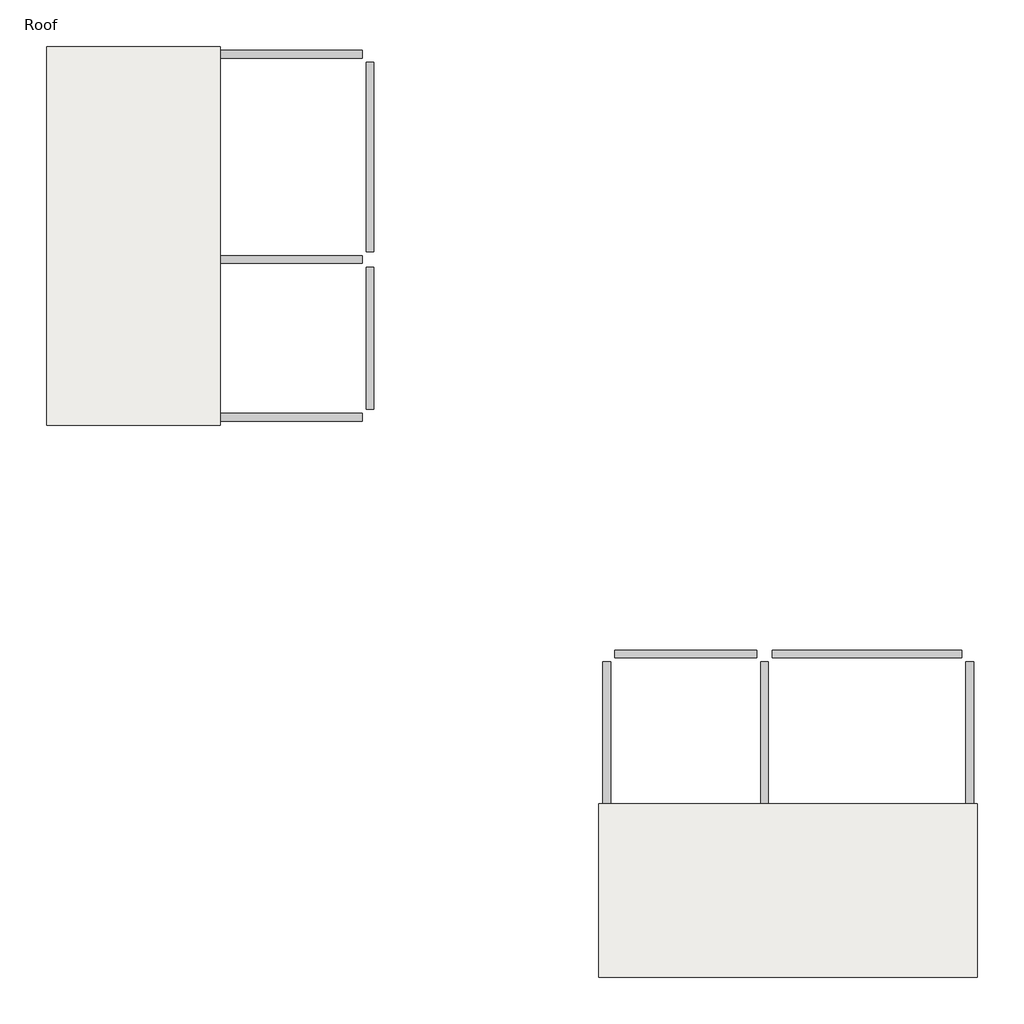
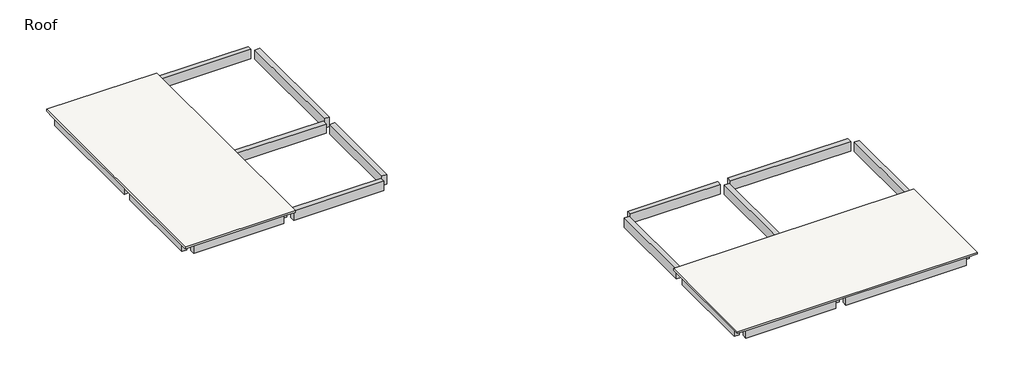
# One storey: 24 beams, 2 slabs.
"""IFC4 building model written with IfcOpenShell, lengths in millimetres."""

import ifcopenshell
import ifcopenshell.guid

model = None  # the IFC model being written
_history = None  # IfcOwnerHistory: only IFC2X3 demands one
_inside = {}  # id of a spatial element -> (the spatial element, [elements in it])
_under = {}  # id of a project, library or spatial element -> (it, [spatial elements below it])
_declared = {}  # id of a project -> (the project, [libraries it declares])
_typed = {}  # id of a type object -> (the type object, [elements of that type])
_made_of = {}  # id of a material, layer set ... -> (it, [elements and type objects made of it])


def new_model(schema):
    """Start an empty IFC model of exactly this schema.

    Asked for "IFC4X3", IfcOpenShell would pick the latest addendum, in which some entities
    have other attributes; the version numbers below select the first issue.
    IFC2X3 requires an IfcOwnerHistory on every rooted entity: one is made here for all.
    """
    global model, _history
    if schema == "IFC4X3":
        model = ifcopenshell.file(schema_version=(4, 3, 0, 0))
    else:
        model = ifcopenshell.file(schema=schema)
    _inside.clear()
    _under.clear()
    _declared.clear()
    _typed.clear()
    _made_of.clear()
    _history = None
    if model.schema == "IFC2X3":
        org = make("IfcOrganization", Name="unknown")
        user = make(
            "IfcPersonAndOrganization",
            ThePerson=make("IfcPerson", FamilyName="unknown"),
            TheOrganization=org,
        )
        app = make(
            "IfcApplication",
            ApplicationDeveloper=org,
            Version="unknown",
            ApplicationFullName="unknown",
            ApplicationIdentifier="unknown",
        )
        _history = make(
            "IfcOwnerHistory",
            OwningUser=user,
            OwningApplication=app,
            ChangeAction="ADDED",
            CreationDate=0,
        )
    return model


def make(cls, **values):
    """One entity of the class cls with the attributes given. An attribute that is None is left unset."""
    return model.create_entity(
        cls, **{name: value for name, value in values.items() if value is not None}
    )


def rooted(cls, **values):
    """An entity with a GlobalId (a new one), such as an element, a storey or a relation."""
    return make(cls, GlobalId=ifcopenshell.guid.new(), OwnerHistory=_history, **values)


def si_unit(unit_type, name, prefix=None):
    """IfcSIUnit, for example si_unit("LENGTHUNIT", "METRE", prefix="MILLI")."""
    return make("IfcSIUnit", UnitType=unit_type, Prefix=prefix, Name=name)


def assignment(units):
    """IfcUnitAssignment: the units of a project."""
    return None if units is None else make("IfcUnitAssignment", Units=units)


def point(xyz):
    """IfcCartesianPoint."""
    return None if xyz is None else make("IfcCartesianPoint", Coordinates=xyz)


def direction(xyz):
    """IfcDirection."""
    return None if xyz is None else make("IfcDirection", DirectionRatios=xyz)


def frame(location, z_axis=None, x_axis=None):
    """IfcAxis2Placement3D, a coordinate frame: its origin and axes. An axis left out is left unset."""
    return make(
        "IfcAxis2Placement3D",
        Location=point(location),
        Axis=direction(z_axis),
        RefDirection=direction(x_axis),
    )


def origin():
    """The frame at (0, 0, 0) with its axes left unset."""
    return frame((0.0, 0.0, 0.0))


def place(relative_to, where):
    """IfcLocalPlacement: puts the frame where relative to a parent placement (None: the world)."""
    return make(
        "IfcLocalPlacement", PlacementRelTo=relative_to, RelativePlacement=where
    )


def context(
    kind, dimensions, precision=None, world=None, true_north=None, identifier=None
):
    """IfcGeometricRepresentationContext, for example the 3D "Model" context."""
    return make(
        "IfcGeometricRepresentationContext",
        ContextIdentifier=identifier,
        ContextType=kind,
        CoordinateSpaceDimension=dimensions,
        Precision=precision,
        WorldCoordinateSystem=world,
        TrueNorth=true_north,
    )


def project(units=None, contexts=None):
    """IfcProject with its units and contexts."""
    return rooted(
        "IfcProject",
        Name="project",
        RepresentationContexts=contexts,
        UnitsInContext=assignment(units),
    )


def spatial(cls, under=None, at=None, **own):
    """A site, building, storey or space (cls), placed at a placement, below another one or the project."""
    s = rooted(cls, ObjectPlacement=at, **own)
    if under is not None:
        _under.setdefault(under.id(), (under, []))[1].append(s)
    return s


def polyline(points):
    """IfcPolyline through the points."""
    return make("IfcPolyline", Points=[point(p) for p in points])


def outline(outer, holes=None, kind="AREA"):
    """IfcArbitraryClosedProfileDef: a profile drawn as a closed curve; with holes, ...WithVoids."""
    if holes is None:
        return make("IfcArbitraryClosedProfileDef", ProfileType=kind, OuterCurve=outer)
    return make(
        "IfcArbitraryProfileDefWithVoids",
        ProfileType=kind,
        OuterCurve=outer,
        InnerCurves=holes,
    )


def extrude(swept, where, along, depth):
    """IfcExtrudedAreaSolid: the profile swept, set in the frame where, extruded along a direction by depth."""
    return make(
        "IfcExtrudedAreaSolid",
        SweptArea=swept,
        Position=where,
        ExtrudedDirection=direction(along),
        Depth=depth,
    )


def faces_of(points, faces, orient=None, outer=None):
    """IfcFace entities. A face is a list of loops; a loop is a list of indices into points, from 0.

    orient and outer hold one flag for each loop. By default every Orientation is true, the
    first loop of a face is its IfcFaceOuterBound and the others are IfcFaceBound.
    """
    made = []
    for i, loops in enumerate(faces):
        bounds = []
        for j, loop in enumerate(loops):
            is_outer = j == 0 if outer is None else outer[i][j]
            bounds.append(
                make(
                    "IfcFaceOuterBound" if is_outer else "IfcFaceBound",
                    Bound=make("IfcPolyLoop", Polygon=[points[k] for k in loop]),
                    Orientation=True if orient is None else orient[i][j],
                )
            )
        made.append(make("IfcFace", Bounds=bounds))
    return made


def faceted_brep(points, faces, orient=None, outer=None, voids=None):
    """IfcFacetedBrep: a solid bounded by flat faces; with voids (closed shells), ...WithVoids."""
    shared = [point(p) for p in points]
    hull = make("IfcClosedShell", CfsFaces=faces_of(shared, faces, orient, outer))
    if voids is None:
        return make("IfcFacetedBrep", Outer=hull)
    return make(
        "IfcFacetedBrepWithVoids",
        Outer=hull,
        Voids=[
            make(cls, CfsFaces=faces_of(shared, fs, o, b)) for cls, fs, o, b in voids
        ],
    )


def shape(context_of_items, identifier, shape_type, items):
    """IfcShapeRepresentation: the items that make up one representation, for example the "Body"."""
    return make(
        "IfcShapeRepresentation",
        ContextOfItems=context_of_items,
        RepresentationIdentifier=identifier,
        RepresentationType=shape_type,
        Items=items,
    )


def made_of(thing, what):
    """Note that an element or type object is made of a material, layer set ...; save() writes the relation."""
    if what is not None:
        _made_of.setdefault(what.id(), (what, []))[1].append(thing)
    return thing


def element(
    cls,
    number,
    at=None,
    inside=None,
    cuts=None,
    type_object=None,
    material=None,
    context=None,
    identifier="Body",
    shape_type=None,
    held_by="IfcProductDefinitionShape",
    body=None,
    shapes=None,
    **own,
):
    """One element of the class cls, such as IfcWall. Its Tag is "e" and its number.

    at: its placement. inside: the storey or other place that contains it. cuts: it is an
    opening in that element (IfcRelVoidsElement). A single representation is given by context,
    identifier, shape_type and body (its items); several are given by shapes. held_by: the class
    of the entity that holds the representations. save() writes the other relations.
    """
    e = rooted(cls, Tag="e%d" % number, ObjectPlacement=at, **own)
    if body is not None:
        shapes = [shape(context, identifier, shape_type, body)]
    if shapes is not None:
        e.Representation = make(held_by, Representations=shapes)
    if inside is not None:
        _inside.setdefault(inside.id(), (inside, []))[1].append(e)
    if cuts is not None:
        rooted(
            "IfcRelVoidsElement", RelatingBuildingElement=cuts, RelatedOpeningElement=e
        )
    if type_object is not None:
        _typed.setdefault(type_object.id(), (type_object, []))[1].append(e)
    return made_of(e, material)


def aggregate(whole, parts):
    """IfcRelAggregates: a whole, such as a stair, and the parts it consists of."""
    return rooted("IfcRelAggregates", RelatingObject=whole, RelatedObjects=parts)


def save(model, path):
    """Write the relations noted so far, then the file.

    IfcRelAggregates (storeys below a building ...), IfcRelContainedInSpatialStructure (elements
    in a storey), IfcRelDefinesByType, IfcRelAssociatesMaterial and IfcRelDeclares: one each for
    every whole, place, type object, material and project.
    """
    for whole, parts in _under.values():
        aggregate(whole, parts)
    for where, things in _inside.values():
        rooted(
            "IfcRelContainedInSpatialStructure",
            RelatedElements=things,
            RelatingStructure=where,
        )
    for kind, things in _typed.values():
        rooted("IfcRelDefinesByType", RelatedObjects=things, RelatingType=kind)
    for what, things in _made_of.values():
        rooted("IfcRelAssociatesMaterial", RelatedObjects=things, RelatingMaterial=what)
    for by, libraries in _declared.values():
        rooted("IfcRelDeclares", RelatingContext=by, RelatedDefinitions=libraries)
    model.write(path)


model = new_model("IFC4")

# Units and contexts
model_context = context("Model", 3, world=origin())
ifc_project = project(units=[si_unit("LENGTHUNIT", "METRE", prefix="MILLI")], contexts=[model_context])

# Site, building, storey
site = spatial("IfcSite", under=ifc_project)
building = spatial("IfcBuilding", under=site)
storey = spatial("IfcBuildingStorey", under=building, Name="Roof", Elevation=7315.2)

# Beams
placement = place(None, origin())
element("IfcBeam", 1, ObjectType="Concrete-Rectangular Beam : 12 x 24", at=placement, inside=storey, context=model_context, shape_type="SweptSolid", body=[
    extrude(outline(polyline([(-38390.2357458, 10155.1034229), (-38390.2357458, 10459.9034229), (-32903.8357458, 10459.9034229), (-32903.8357458, 10155.1034229), (-38390.2357458, 10155.1034229)])), frame((0.0, 0.0, 6705.6), z_axis=(0.0, 0.0, 1.0), x_axis=(1.0, 0.0, 0.0)), (0.0, 0.0, 1.0), 609.6),
])
element("IfcBeam", 2, ObjectType="Concrete-Rectangular Beam : 12 x 24", at=placement, inside=storey, context=model_context, shape_type="SweptSolid", body=[
    extrude(outline(polyline([(-32294.2357458, 10155.1034229), (-32294.2357458, 10459.9034229), (-26807.8357458, 10459.9034229), (-26807.8357458, 10155.1034229), (-32294.2357458, 10155.1034229)])), frame((0.0, 0.0, 6705.6), z_axis=(0.0, 0.0, 1.0), x_axis=(1.0, 0.0, 0.0)), (0.0, 0.0, 1.0), 609.6),
])
element("IfcBeam", 3, ObjectType="Concrete-Rectangular Beam : 12 x 24", at=placement, inside=storey, context=model_context, shape_type="SweptSolid", body=[
    extrude(outline(polyline([(-32294.2357458, -3865.6965771), (-32294.2357458, -3560.8965771), (-26807.8357458, -3560.8965771), (-26807.8357458, -3865.6965771), (-32294.2357458, -3865.6965771)])), frame((0.0, 0.0, 6705.6), z_axis=(0.0, 0.0, 1.0), x_axis=(1.0, 0.0, 0.0)), (0.0, 0.0, 1.0), 609.6),
])
element("IfcBeam", 4, ObjectType="Concrete-Rectangular Beam : 12 x 24", at=placement, inside=storey, context=model_context, shape_type="SweptSolid", body=[
    extrude(outline(polyline([(-38390.2357458, -3865.6965771), (-38390.2357458, -3560.8965771), (-32903.8357458, -3560.8965771), (-32903.8357458, -3865.6965771), (-38390.2357458, -3865.6965771)])), frame((0.0, 0.0, 6705.6), z_axis=(0.0, 0.0, 1.0), x_axis=(1.0, 0.0, 0.0)), (0.0, 0.0, 1.0), 609.6),
])
element("IfcBeam", 5, ObjectType="Concrete-Rectangular Beam : 12 x 24", at=placement, inside=storey, context=model_context, shape_type="SweptSolid", body=[
    extrude(outline(polyline([(-32294.2357458, 2230.3034229), (-32294.2357458, 2535.1034229), (-26807.8357458, 2535.1034229), (-26807.8357458, 2230.3034229), (-32294.2357458, 2230.3034229)])), frame((0.0, 0.0, 6705.6), z_axis=(0.0, 0.0, 1.0), x_axis=(1.0, 0.0, 0.0)), (0.0, 0.0, 1.0), 609.6),
])
element("IfcBeam", 6, ObjectType="Concrete-Rectangular Beam : 12 x 24", at=placement, inside=storey, context=model_context, shape_type="SweptSolid", body=[
    extrude(outline(polyline([(-38390.2357458, 2230.3034229), (-38390.2357458, 2535.1034229), (-32903.8357458, 2535.1034229), (-32903.8357458, 2230.3034229), (-38390.2357458, 2230.3034229)])), frame((0.0, 0.0, 6705.6), z_axis=(0.0, 0.0, 1.0), x_axis=(1.0, 0.0, 0.0)), (0.0, 0.0, 1.0), 609.6),
])
element("IfcBeam", 7, ObjectType="Concrete-Rectangular Beam : 12 x 24", at=placement, inside=storey, context=model_context, shape_type="SweptSolid", body=[
    extrude(outline(polyline([(-26350.6357458, -3408.4965771), (-26655.4357458, -3408.4965771), (-26655.4357458, 2077.9034229), (-26350.6357458, 2077.9034229), (-26350.6357458, -3408.4965771)])), frame((0.0, 0.0, 6705.6), z_axis=(0.0, 0.0, 1.0), x_axis=(1.0, 0.0, 0.0)), (0.0, 0.0, 1.0), 609.6),
])
element("IfcBeam", 8, ObjectType="Concrete-Rectangular Beam : 12 x 24", at=placement, inside=storey, context=model_context, shape_type="SweptSolid", body=[
    extrude(outline(polyline([(-26350.6357458, 2687.5034229), (-26655.4357458, 2687.5034229), (-26655.4357458, 10002.7034229), (-26350.6357458, 10002.7034229), (-26350.6357458, 2687.5034229)])), frame((0.0, 0.0, 6705.6), z_axis=(0.0, 0.0, 1.0), x_axis=(1.0, 0.0, 0.0)), (0.0, 0.0, 1.0), 609.6),
])
element("IfcBeam", 9, ObjectType="Concrete-Rectangular Beam : 12 x 24", at=placement, inside=storey, context=model_context, shape_type="SweptSolid", body=[
    extrude(outline(polyline([(-32446.6357458, -3408.4965771), (-32751.4357458, -3408.4965771), (-32751.4357458, 2077.9034229), (-32446.6357458, 2077.9034229), (-32446.6357458, -3408.4965771)])), frame((0.0, 0.0, 6705.6), z_axis=(0.0, 0.0, 1.0), x_axis=(1.0, 0.0, 0.0)), (0.0, 0.0, 1.0), 609.6),
])
element("IfcBeam", 10, ObjectType="Concrete-Rectangular Beam : 12 x 24", at=placement, inside=storey, context=model_context, shape_type="SweptSolid", body=[
    extrude(outline(polyline([(-32446.6357458, 2687.5034229), (-32751.4357458, 2687.5034229), (-32751.4357458, 10002.7034229), (-32446.6357458, 10002.7034229), (-32446.6357458, 2687.5034229)])), frame((0.0, 0.0, 6705.6), z_axis=(0.0, 0.0, 1.0), x_axis=(1.0, 0.0, 0.0)), (0.0, 0.0, 1.0), 609.6),
])
element("IfcBeam", 11, ObjectType="Concrete-Rectangular Beam : 12 x 24", at=placement, inside=storey, context=model_context, shape_type="SweptSolid", body=[
    extrude(outline(polyline([(-38542.6357458, -3408.4965771), (-38847.4357458, -3408.4965771), (-38847.4357458, 2077.9034229), (-38542.6357458, 2077.9034229), (-38542.6357458, -3408.4965771)])), frame((0.0, 0.0, 6705.6), z_axis=(0.0, 0.0, 1.0), x_axis=(1.0, 0.0, 0.0)), (0.0, 0.0, 1.0), 609.6),
])
element("IfcBeam", 12, ObjectType="Concrete-Rectangular Beam : 12 x 24", at=placement, inside=storey, context=model_context, shape_type="SweptSolid", body=[
    extrude(outline(polyline([(-38542.6357458, 2687.5034229), (-38847.4357458, 2687.5034229), (-38847.4357458, 10002.7034229), (-38542.6357458, 10002.7034229), (-38542.6357458, 2687.5034229)])), frame((0.0, 0.0, 6705.6), z_axis=(0.0, 0.0, 1.0), x_axis=(1.0, 0.0, 0.0)), (0.0, 0.0, 1.0), 609.6),
])
element("IfcBeam", 13, ObjectType="Concrete-Rectangular Beam : 12 x 24", at=placement, inside=storey, context=model_context, shape_type="SweptSolid", body=[
    extrude(outline(polyline([(-3185.8357458, -24744.4965771), (-3490.6357458, -24744.4965771), (-3490.6357458, -19258.0965771), (-3185.8357458, -19258.0965771), (-3185.8357458, -24744.4965771)])), frame((0.0, 0.0, 6705.6), z_axis=(0.0, 0.0, 1.0), x_axis=(1.0, 0.0, 0.0)), (0.0, 0.0, 1.0), 609.6),
])
element("IfcBeam", 14, ObjectType="Concrete-Rectangular Beam : 12 x 24", at=placement, inside=storey, context=model_context, shape_type="SweptSolid", body=[
    extrude(outline(polyline([(-3185.8357458, -18648.4965771), (-3490.6357458, -18648.4965771), (-3490.6357458, -13162.0965771), (-3185.8357458, -13162.0965771), (-3185.8357458, -18648.4965771)])), frame((0.0, 0.0, 6705.6), z_axis=(0.0, 0.0, 1.0), x_axis=(1.0, 0.0, 0.0)), (0.0, 0.0, 1.0), 609.6),
])
element("IfcBeam", 15, ObjectType="Concrete-Rectangular Beam : 12 x 24", at=placement, inside=storey, context=model_context, shape_type="SweptSolid", body=[
    extrude(outline(polyline([(-17206.6357458, -18648.4965771), (-17511.4357458, -18648.4965771), (-17511.4357458, -13162.0965771), (-17206.6357458, -13162.0965771), (-17206.6357458, -18648.4965771)])), frame((0.0, 0.0, 6705.6), z_axis=(0.0, 0.0, 1.0), x_axis=(1.0, 0.0, 0.0)), (0.0, 0.0, 1.0), 609.6),
])
element("IfcBeam", 16, ObjectType="Concrete-Rectangular Beam : 12 x 24", at=placement, inside=storey, context=model_context, shape_type="SweptSolid", body=[
    extrude(outline(polyline([(-17206.6357458, -24744.4965771), (-17511.4357458, -24744.4965771), (-17511.4357458, -19258.0965771), (-17206.6357458, -19258.0965771), (-17206.6357458, -24744.4965771)])), frame((0.0, 0.0, 6705.6), z_axis=(0.0, 0.0, 1.0), x_axis=(1.0, 0.0, 0.0)), (0.0, 0.0, 1.0), 609.6),
])
element("IfcBeam", 17, ObjectType="Concrete-Rectangular Beam : 12 x 24", at=placement, inside=storey, context=model_context, shape_type="SweptSolid", body=[
    extrude(outline(polyline([(-11110.6357458, -18648.4965771), (-11415.4357458, -18648.4965771), (-11415.4357458, -13162.0965771), (-11110.6357458, -13162.0965771), (-11110.6357458, -18648.4965771)])), frame((0.0, 0.0, 6705.6), z_axis=(0.0, 0.0, 1.0), x_axis=(1.0, 0.0, 0.0)), (0.0, 0.0, 1.0), 609.6),
])
element("IfcBeam", 18, ObjectType="Concrete-Rectangular Beam : 12 x 24", at=placement, inside=storey, context=model_context, shape_type="SweptSolid", body=[
    extrude(outline(polyline([(-11110.6357458, -24744.4965771), (-11415.4357458, -24744.4965771), (-11415.4357458, -19258.0965771), (-11110.6357458, -19258.0965771), (-11110.6357458, -24744.4965771)])), frame((0.0, 0.0, 6705.6), z_axis=(0.0, 0.0, 1.0), x_axis=(1.0, 0.0, 0.0)), (0.0, 0.0, 1.0), 609.6),
])
element("IfcBeam", 19, ObjectType="Concrete-Rectangular Beam : 12 x 24", at=placement, inside=storey, context=model_context, shape_type="SweptSolid", body=[
    extrude(outline(polyline([(-17054.2357458, -13009.6965771), (-17054.2357458, -12704.8965771), (-11567.8357458, -12704.8965771), (-11567.8357458, -13009.6965771), (-17054.2357458, -13009.6965771)])), frame((0.0, 0.0, 6705.6), z_axis=(0.0, 0.0, 1.0), x_axis=(1.0, 0.0, 0.0)), (0.0, 0.0, 1.0), 609.6),
])
element("IfcBeam", 20, ObjectType="Concrete-Rectangular Beam : 12 x 24", at=placement, inside=storey, context=model_context, shape_type="SweptSolid", body=[
    extrude(outline(polyline([(-10958.2357458, -13009.6965771), (-10958.2357458, -12704.8965771), (-3643.0357458, -12704.8965771), (-3643.0357458, -13009.6965771), (-10958.2357458, -13009.6965771)])), frame((0.0, 0.0, 6705.6), z_axis=(0.0, 0.0, 1.0), x_axis=(1.0, 0.0, 0.0)), (0.0, 0.0, 1.0), 609.6),
])
element("IfcBeam", 21, ObjectType="Concrete-Rectangular Beam : 12 x 24", at=placement, inside=storey, context=model_context, shape_type="SweptSolid", body=[
    extrude(outline(polyline([(-17054.2357458, -19105.6965771), (-17054.2357458, -18800.8965771), (-11567.8357458, -18800.8965771), (-11567.8357458, -19105.6965771), (-17054.2357458, -19105.6965771)])), frame((0.0, 0.0, 6705.6), z_axis=(0.0, 0.0, 1.0), x_axis=(1.0, 0.0, 0.0)), (0.0, 0.0, 1.0), 609.6),
])
element("IfcBeam", 22, ObjectType="Concrete-Rectangular Beam : 12 x 24", at=placement, inside=storey, context=model_context, shape_type="SweptSolid", body=[
    extrude(outline(polyline([(-10958.2357458, -19105.6965771), (-10958.2357458, -18800.8965771), (-3643.0357458, -18800.8965771), (-3643.0357458, -19105.6965771), (-10958.2357458, -19105.6965771)])), frame((0.0, 0.0, 6705.6), z_axis=(0.0, 0.0, 1.0), x_axis=(1.0, 0.0, 0.0)), (0.0, 0.0, 1.0), 609.6),
])
element("IfcBeam", 23, ObjectType="Concrete-Rectangular Beam : 12 x 24", at=placement, inside=storey, context=model_context, shape_type="SweptSolid", body=[
    extrude(outline(polyline([(-17054.2357458, -25201.6965771), (-17054.2357458, -24896.8965771), (-11567.8357458, -24896.8965771), (-11567.8357458, -25201.6965771), (-17054.2357458, -25201.6965771)])), frame((0.0, 0.0, 6705.6), z_axis=(0.0, 0.0, 1.0), x_axis=(1.0, 0.0, 0.0)), (0.0, 0.0, 1.0), 609.6),
])
element("IfcBeam", 24, ObjectType="Concrete-Rectangular Beam : 12 x 24", at=placement, inside=storey, context=model_context, shape_type="SweptSolid", body=[
    extrude(outline(polyline([(-10958.2357458, -25201.6965771), (-10958.2357458, -24896.8965771), (-3643.0357458, -24896.8965771), (-3643.0357458, -25201.6965771), (-10958.2357458, -25201.6965771)])), frame((0.0, 0.0, 6705.6), z_axis=(0.0, 0.0, 1.0), x_axis=(1.0, 0.0, 0.0)), (0.0, 0.0, 1.0), 609.6),
])

# Slabs
element("IfcSlab", 25, ObjectType="LW Concrete on Metal Deck", at=placement, inside=storey, context=model_context, shape_type="Brep", body=[
    faceted_brep([(-32294.2357458, 10612.3034229, 7315.2), (-32294.2357458, 10002.7034229, 7315.2), (-32294.2357458, 2687.5034229, 7315.2), (-32294.2357458, 2077.9034229, 7315.2), (-32294.2357458, -3408.4965771, 7315.2), (-32294.2357458, -4018.0965771, 7315.2), (-32903.8357458, -4018.0965771, 7315.2), (-38390.2357458, -4018.0965771, 7315.2), (-38999.8357458, -4018.0965771, 7315.2), (-38999.8357458, -3408.4965771, 7315.2), (-38999.8357458, 2077.9034229, 7315.2), (-38999.8357458, 2687.5034229, 7315.2), (-38999.8357458, 10002.7034229, 7315.2), (-38999.8357458, 10612.3034229, 7315.2), (-38390.2357458, 10612.3034229, 7315.2), (-32903.8357458, 10612.3034229, 7315.2), (-32294.2357458, 10612.3034229, 7435.85), (-38999.8357458, 10612.3034229, 7435.85), (-38999.8357458, -4018.0965771, 7435.85), (-32294.2357458, -4018.0965771, 7435.85)], [[[0, 1, 2, 3, 4, 5, 6, 7, 8, 9, 10, 11, 12, 13, 14, 15]], [[16, 17, 18, 19]], [[5, 4, 3, 2, 1, 0, 16, 19]], [[8, 7, 6, 5, 19, 18]], [[13, 12, 11, 10, 9, 8, 18, 17]], [[0, 15, 14, 13, 17, 16]]]),
])
element("IfcSlab", 26, ObjectType="LW Concrete on Metal Deck", at=placement, inside=storey, context=model_context, shape_type="Brep", body=[
    faceted_brep([(-3033.4357458, -18648.4965771, 7315.2), (-3033.4357458, -19258.0965771, 7315.2), (-3033.4357458, -24744.4965771, 7315.2), (-3033.4357458, -25354.0965771, 7315.2), (-3643.0357458, -25354.0965771, 7315.2), (-10958.2357458, -25354.0965771, 7315.2), (-11567.8357458, -25354.0965771, 7315.2), (-17054.2357458, -25354.0965771, 7315.2), (-17663.8357458, -25354.0965771, 7315.2), (-17663.8357458, -24744.4965771, 7315.2), (-17663.8357458, -19258.0965771, 7315.2), (-17663.8357458, -18648.4965771, 7315.2), (-17054.2357458, -18648.4965771, 7315.2), (-11567.8357458, -18648.4965771, 7315.2), (-10958.2357458, -18648.4965771, 7315.2), (-3643.0357458, -18648.4965771, 7315.2), (-3033.4357458, -18648.4965771, 7435.85), (-17663.8357458, -18648.4965771, 7435.85), (-17663.8357458, -25354.0965771, 7435.85), (-3033.4357458, -25354.0965771, 7435.85)], [[[0, 1, 2, 3, 4, 5, 6, 7, 8, 9, 10, 11, 12, 13, 14, 15]], [[16, 17, 18, 19]], [[0, 15, 14, 13, 12, 11, 17, 16]], [[11, 10, 9, 8, 18, 17]], [[8, 7, 6, 5, 4, 3, 19, 18]], [[3, 2, 1, 0, 16, 19]]]),
])

save(model, "model.ifc")
